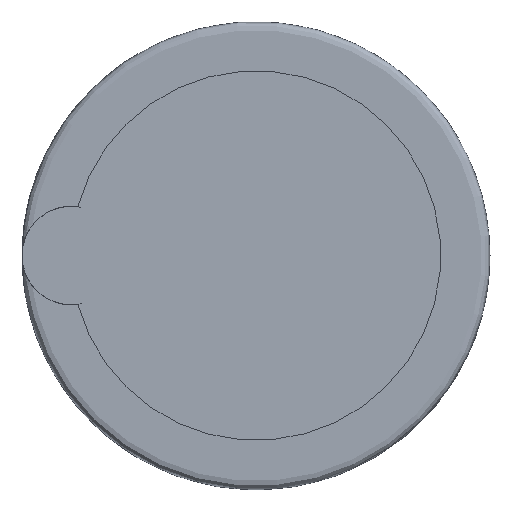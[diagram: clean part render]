
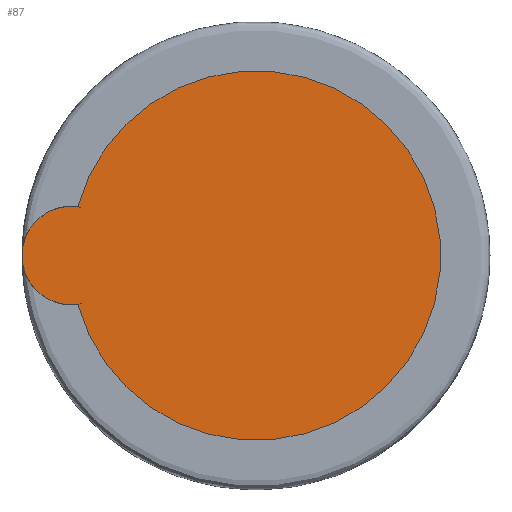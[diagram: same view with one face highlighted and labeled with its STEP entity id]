
A CAD part, top view. The second image highlights one B-rep face of the part: STEP entity #87.
In plain terms, the highlighted planar face has unit normal (0, 0, 1).
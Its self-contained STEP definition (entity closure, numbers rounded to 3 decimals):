
#87=ADVANCED_FACE('',(#181),#182,.T.);
#181=FACE_OUTER_BOUND('',#270,.T.);
#182=PLANE('',#271);
#270=EDGE_LOOP('',(#432,#433));
#271=AXIS2_PLACEMENT_3D('',#434,#435,#436);
#432=ORIENTED_EDGE('',*,*,#482,.F.);
#433=ORIENTED_EDGE('',*,*,#465,.F.);
#434=CARTESIAN_POINT('',(-22.5,0.0,35.));
#435=DIRECTION('',(0.0,0.,1.0));
#436=DIRECTION('',(0.0,-1.0,0.));
#465=EDGE_CURVE('',#526,#527,#528,.T.);
#482=EDGE_CURVE('',#527,#526,#553,.T.);
#526=VERTEX_POINT('',#597);
#527=VERTEX_POINT('',#598);
#528=CIRCLE('',#599,6.0);
#553=CIRCLE('',#696,22.5);
#597=CARTESIAN_POINT('',(-21.7,-5.946,35.));
#598=CARTESIAN_POINT('',(-21.7,5.946,35.));
#599=AXIS2_PLACEMENT_3D('',#738,#739,#740);
#696=AXIS2_PLACEMENT_3D('',#755,#756,#757);
#738=CARTESIAN_POINT('',(-22.5,0.0,35.));
#739=DIRECTION('',(0.0,0.0,-1.0));
#740=DIRECTION('',(1.0,0.0,0.0));
#755=CARTESIAN_POINT('',(0.0,0.0,35.));
#756=DIRECTION('',(-0.0,0.,-1.0));
#757=DIRECTION('',(0.0,1.0,0.));
